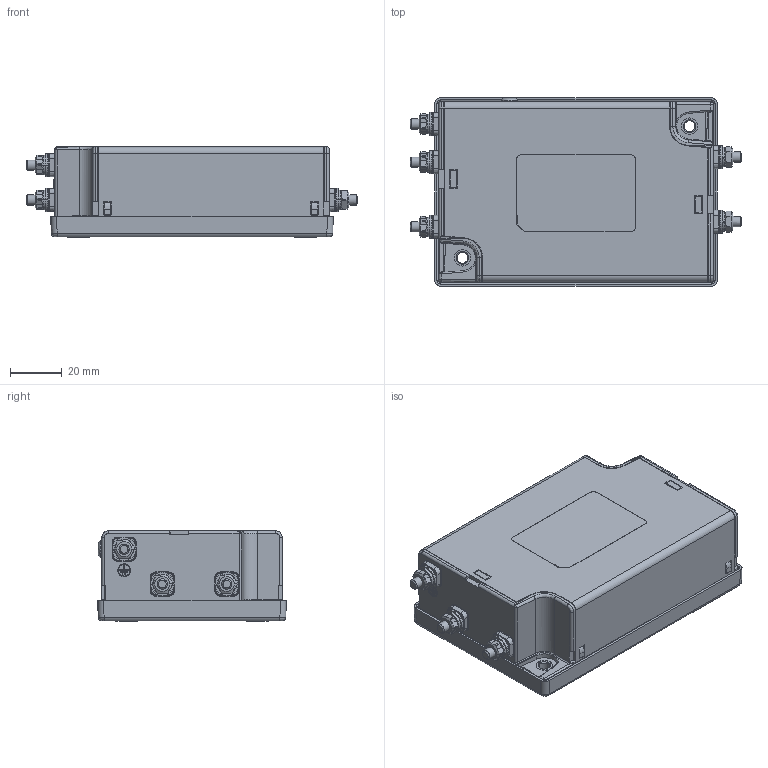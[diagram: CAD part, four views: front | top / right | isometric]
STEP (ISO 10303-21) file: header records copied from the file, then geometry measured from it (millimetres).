
FILE_DESCRIPTION(/* description */ (''),/* implementation_level */ '2;1');
FILE_NAME(/* name */ 'C:\Users\Christian.Ackermann\OneDrive - Schaffner EMV AG\Desktop\UMA_customerSTEP\FN250x-32-08.stp',/* time_stamp */ '2021-08-24T08:57:27+02:00',/* author */ ('Christian.Ackermann'),/* organization */ (''),/* preprocessor_version */ 'ST-DEVELOPER v18.1',/* originating_system */ 'Autodesk Inventor 2020',/* authorisation */ '');
FILE_SCHEMA (('AUTOMOTIVE_DESIGN { 1 0 10303 214 3 1 1 }'));
Products named in the file (1): FN250x-32-08
Bounding box: 128.6 x 73 x 35.17 mm (x, y, z)
Volume: 250683.9 mm3; surface area: 44612.4 mm2
Topology: 1 solids, 1 shells, 1542 faces, 3926 edges, 2436 vertices
Faces by surface type: plane 662, cylinder 503, bspline 141, cone 110, torus 84, sphere 42
Full cylindrical faces by diameter (mm): 2 x1, 4 x7, 4.2 x2, 6.4 x2, 6.5 x1, 8.39 x4, 8.74 x6
Entity records: 52306 total; most frequent: CARTESIAN_POINT 13696, ORIENTED_EDGE 7848, DIRECTION 7722, EDGE_CURVE 3924, AXIS2_PLACEMENT_3D 2811, VERTEX_POINT 2436, LINE 2100, VECTOR 2100
